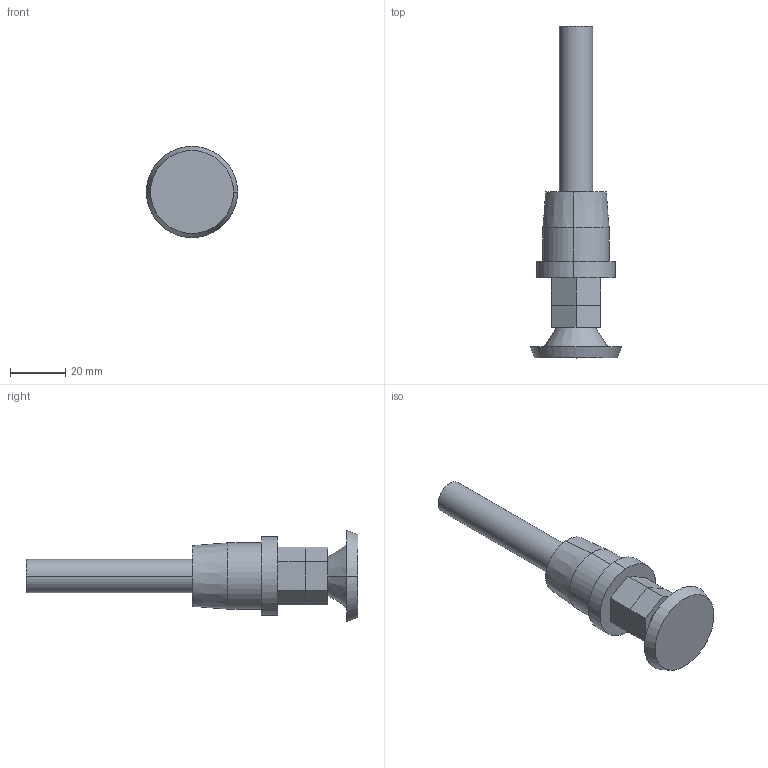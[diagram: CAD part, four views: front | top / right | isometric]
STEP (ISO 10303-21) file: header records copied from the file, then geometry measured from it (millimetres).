
FILE_DESCRIPTION (( 'STEP AP214' ), '1' );
FILE_NAME ('JB-412.step', '2024-02-15T05:11:50', ( 'catia' ), ( 'HP Inc.' ), 'SwSTEP 2.0', 'SolidWorks 2021', '' );
FILE_SCHEMA (( 'AUTOMOTIVE_DESIGN' ));
Length unit declared in the file: millimetre
Products named in the file (4): JB-412_轡寶M12; JB-412; JB-406M12
Assembly tree (3 placements, depth 2):
  JB-412
    JB-412
    JB-406M12
    JB-412_轡寶M12
Bounding box: 33 x 120 x 33 mm (x, y, z)
Volume: 31535.7 mm3; surface area: 12632.5 mm2
Topology: 3 solids, 3 shells, 38 faces, 82 edges, 54 vertices
Faces by surface type: plane 22, cylinder 10, cone 6
Entity records: 1202 total; most frequent: DIRECTION 200, CARTESIAN_POINT 180, ORIENTED_EDGE 164, EDGE_CURVE 82, AXIS2_PLACEMENT_3D 74, VERTEX_POINT 54, VECTOR 52, LINE 52
